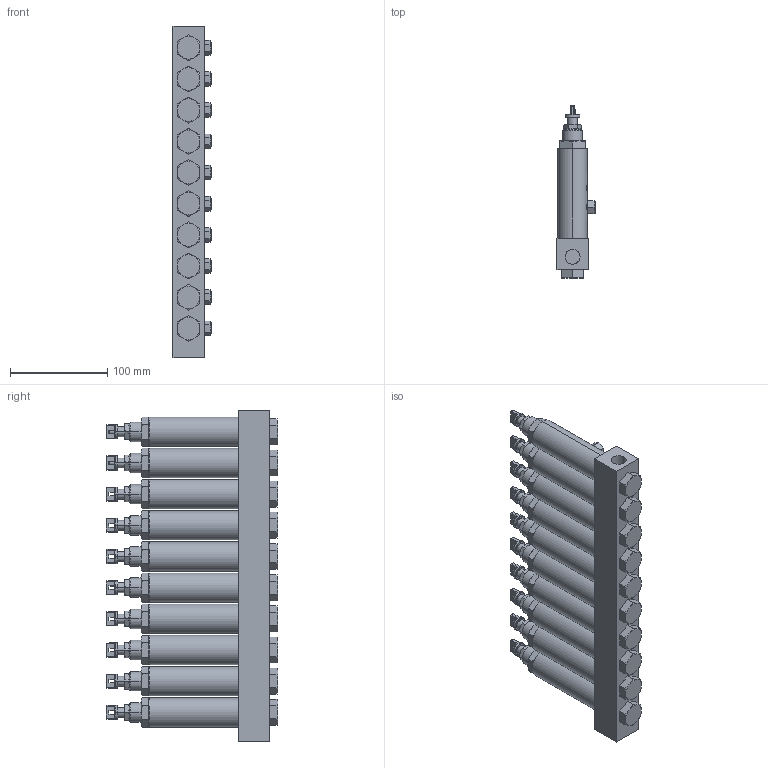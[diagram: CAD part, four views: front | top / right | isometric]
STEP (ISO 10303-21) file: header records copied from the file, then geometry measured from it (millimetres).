
FILE_DESCRIPTION (( 'STEP AP203' ), '1' );
FILE_NAME ('ASL-10.STEP', '2020-04-18T03:39:16', ( '个人用户' ), ( '微软中国' ), 'SwSTEP 2.0', 'SolidWorks 2018', '' );
FILE_SCHEMA (( 'CONFIG_CONTROL_DESIGN' ));
Length unit declared in the file: millimetre
Products named in the file (1): ASL-10
Bounding box: 39 x 176.5 x 340 mm (x, y, z)
Surface area: 191725 mm2 (no closed solid volume)
Topology: 0 solids, 86 shells, 1023 faces, 2838 edges, 1894 vertices
Faces by surface type: plane 563, cone 290, cylinder 146, torus 20, sphere 4
Entity records: 38014 total; most frequent: CARTESIAN_POINT 12674, ORIENTED_EDGE 5064, DIRECTION 5032, EDGE_CURVE 2828, VERTEX_POINT 1888, AXIS2_PLACEMENT_3D 1862, LINE 1308, VECTOR 1308
